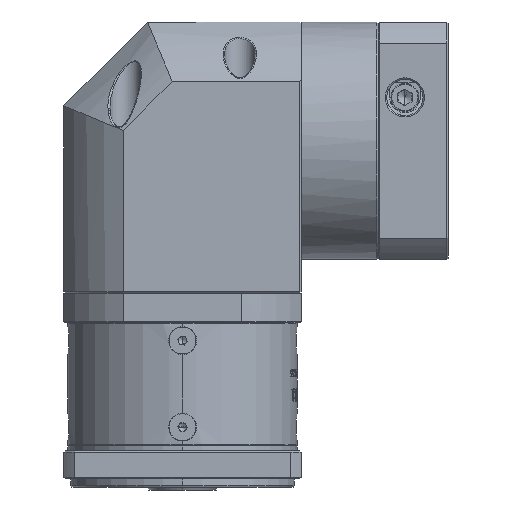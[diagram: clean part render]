
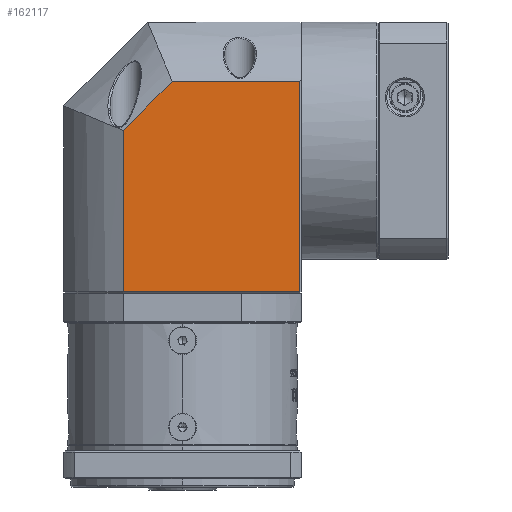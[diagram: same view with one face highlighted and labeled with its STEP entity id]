
A CAD part, front view. The second image highlights one B-rep face of the part: STEP entity #162117.
In plain terms, the highlighted planar face has unit normal (0, -1, 0).
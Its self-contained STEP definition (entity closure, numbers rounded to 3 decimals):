
#2099 = EDGE_CURVE ( 'NONE', #153021, #81091, #38998, .T. ) ;
#3705 = VECTOR ( 'NONE', #42754, 1000. ) ;
#8172 = EDGE_CURVE ( 'NONE', #108664, #42910, #98003, .T. ) ;
#10282 = CARTESIAN_POINT ( 'NONE',  ( 6.578, 84.697, 20.877 ) ) ;
#15017 = AXIS2_PLACEMENT_3D ( 'NONE', #21145, #113875, #34553 ) ;
#17303 = LINE ( 'NONE', #17627, #83699 ) ;
#17627 = CARTESIAN_POINT ( 'NONE',  ( 70.291, 84.697, -75.623 ) ) ;
#20970 = VECTOR ( 'NONE', #62713, 1000. ) ;
#21145 = CARTESIAN_POINT ( 'NONE',  ( 70.291, 84.697, 20.877 ) ) ;
#24982 = EDGE_CURVE ( 'NONE', #42910, #40983, #157734, .T. ) ;
#29113 = EDGE_CURVE ( 'NONE', #40983, #153021, #100209, .T. ) ;
#30963 = DIRECTION ( 'NONE',  ( 1., 0., 0. ) ) ;
#31954 = ORIENTED_EDGE ( 'NONE', *, *, #8172, .F. ) ;
#32774 = CARTESIAN_POINT ( 'NONE',  ( 69.791, 84.697, -0.41 ) ) ;
#34553 = DIRECTION ( 'NONE',  ( -1., 0., 0. ) ) ;
#37015 = ORIENTED_EDGE ( 'NONE', *, *, #24982, .F. ) ;
#38998 = LINE ( 'NONE', #135248, #3705 ) ;
#40983 = VERTEX_POINT ( 'NONE', #167825 ) ;
#42754 = DIRECTION ( 'NONE',  ( 0., 0., -1. ) ) ;
#42910 = VERTEX_POINT ( 'NONE', #151374 ) ;
#45543 = ORIENTED_EDGE ( 'NONE', *, *, #29113, .F. ) ;
#60652 = PLANE ( 'NONE',  #15017 ) ;
#62604 = ORIENTED_EDGE ( 'NONE', *, *, #2099, .F. ) ;
#62713 = DIRECTION ( 'NONE',  ( 0.707, 0., 0.707 ) ) ;
#70453 = EDGE_CURVE ( 'NONE', #108664, #81091, #17303, .T. ) ;
#71322 = ORIENTED_EDGE ( 'NONE', *, *, #70453, .T. ) ;
#72340 = CARTESIAN_POINT ( 'NONE',  ( 69.791, 84.697, -75.623 ) ) ;
#81091 = VERTEX_POINT ( 'NONE', #72340 ) ;
#83699 = VECTOR ( 'NONE', #30963, 1000. ) ;
#93879 = VECTOR ( 'NONE', #156734, 1000. ) ;
#95433 = CARTESIAN_POINT ( 'NONE',  ( 70.291, 84.697, -0.41 ) ) ;
#98003 = LINE ( 'NONE', #10282, #93879 ) ;
#100209 = LINE ( 'NONE', #95433, #135406 ) ;
#108664 = VERTEX_POINT ( 'NONE', #164122 ) ;
#113875 = DIRECTION ( 'NONE',  ( 0., 1., 0. ) ) ;
#120930 = DIRECTION ( 'NONE',  ( 1., 0., 0. ) ) ;
#127846 = EDGE_LOOP ( 'NONE', ( #71322, #62604, #45543, #37015, #31954 ) ) ;
#135248 = CARTESIAN_POINT ( 'NONE',  ( 69.791, 84.697, 20.877 ) ) ;
#135406 = VECTOR ( 'NONE', #120930, 1000. ) ;
#140878 = FACE_OUTER_BOUND ( 'NONE', #127846, .T. ) ;
#151374 = CARTESIAN_POINT ( 'NONE',  ( 6.578, 84.697, -17.94 ) ) ;
#153021 = VERTEX_POINT ( 'NONE', #32774 ) ;
#155270 = CARTESIAN_POINT ( 'NONE',  ( 6.578, 84.697, -17.94 ) ) ;
#156734 = DIRECTION ( 'NONE',  ( 0., 0., 1. ) ) ;
#157734 = LINE ( 'NONE', #155270, #20970 ) ;
#162117 = ADVANCED_FACE ( 'NONE', ( #140878 ), #60652, .F. ) ;
#164122 = CARTESIAN_POINT ( 'NONE',  ( 6.578, 84.697, -75.623 ) ) ;
#167825 = CARTESIAN_POINT ( 'NONE',  ( 24.108, 84.697, -0.41 ) ) ;
